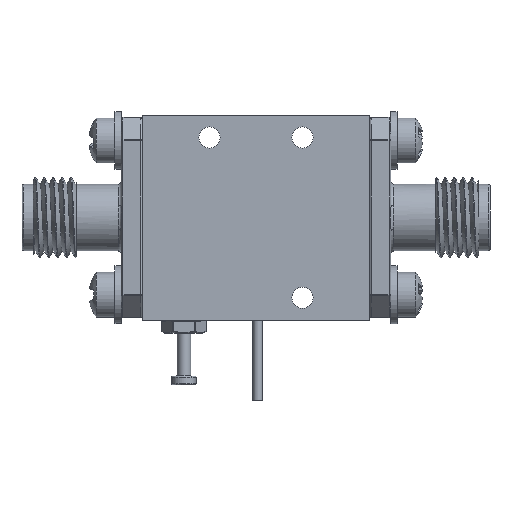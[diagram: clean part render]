
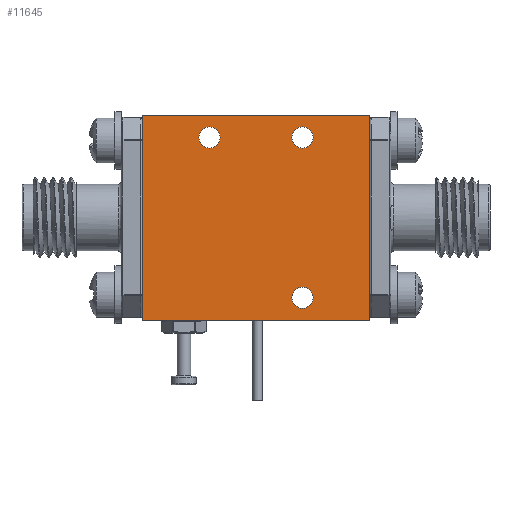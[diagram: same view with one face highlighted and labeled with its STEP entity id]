
A CAD part, front view. The second image highlights one B-rep face of the part: STEP entity #11645.
In plain terms, the highlighted planar face has unit normal (0, -1, 0).
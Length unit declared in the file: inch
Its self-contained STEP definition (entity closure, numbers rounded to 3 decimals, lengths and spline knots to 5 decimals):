
#1190 = ORIENTED_EDGE ( 'NONE', *, *, #27134, .F. ) ;
#1203 = ORIENTED_EDGE ( 'NONE', *, *, #33918, .T. ) ;
#1802 = ORIENTED_EDGE ( 'NONE', *, *, #6480, .F. ) ;
#2049 = PLANE ( 'NONE',  #17619 ) ;
#2176 = CARTESIAN_POINT ( 'NONE',  ( 39.39014, 39.2925, 39.29262 ) ) ;
#2521 = CARTESIAN_POINT ( 'NONE',  ( 39.39014, 39.2925, 39.82574 ) ) ;
#2618 = DIRECTION ( 'NONE',  ( 0., 0., 1. ) ) ;
#2927 = EDGE_CURVE ( 'NONE', #26041, #26041, #5618, .T. ) ;
#3206 = VECTOR ( 'NONE', #33217, 39.37008 ) ;
#5017 = ORIENTED_EDGE ( 'NONE', *, *, #19297, .T. ) ;
#5150 = EDGE_LOOP ( 'NONE', ( #9385 ) ) ;
#5272 = CARTESIAN_POINT ( 'NONE',  ( 39.10014, 39.2925, 39.79262 ) ) ;
#5476 = DIRECTION ( 'NONE',  ( 0., 0., -1. ) ) ;
#5618 = CIRCLE ( 'NONE', #19883, 0.03313 ) ;
#5742 = EDGE_LOOP ( 'NONE', ( #5017 ) ) ;
#5869 = DIRECTION ( 'NONE',  ( 0., 1., 0. ) ) ;
#6233 = EDGE_CURVE ( 'NONE', #35273, #27660, #19880, .T. ) ;
#6480 = EDGE_CURVE ( 'NONE', #27660, #11830, #9542, .T. ) ;
#7889 = FACE_BOUND ( 'NONE', #37215, .T. ) ;
#8123 = VECTOR ( 'NONE', #29157, 39.37008 ) ;
#8364 = CARTESIAN_POINT ( 'NONE',  ( 39.60014, 39.2925, 39.22262 ) ) ;
#9385 = ORIENTED_EDGE ( 'NONE', *, *, #2927, .T. ) ;
#9542 = LINE ( 'NONE', #21411, #3206 ) ;
#9549 = VECTOR ( 'NONE', #5476, 39.37008 ) ;
#11078 = DIRECTION ( 'NONE',  ( 0., 0., 1. ) ) ;
#11645 = ADVANCED_FACE ( 'NONE', ( #7889, #13726, #16849, #28650 ), #2049, .F. ) ;
#11792 = ORIENTED_EDGE ( 'NONE', *, *, #6233, .F. ) ;
#11830 = VERTEX_POINT ( 'NONE', #26261 ) ;
#11865 = VERTEX_POINT ( 'NONE', #20464 ) ;
#12132 = DIRECTION ( 'NONE',  ( 0., 1., 0. ) ) ;
#13726 = FACE_BOUND ( 'NONE', #5150, .T. ) ;
#13916 = CIRCLE ( 'NONE', #15189, 0.03313 ) ;
#13918 = VERTEX_POINT ( 'NONE', #16658 ) ;
#14003 = VECTOR ( 'NONE', #14317, 39.37008 ) ;
#14317 = DIRECTION ( 'NONE',  ( 1., 0., 0. ) ) ;
#15189 = AXIS2_PLACEMENT_3D ( 'NONE', #2176, #37466, #32067 ) ;
#16033 = EDGE_CURVE ( 'NONE', #11865, #35273, #32032, .T. ) ;
#16658 = CARTESIAN_POINT ( 'NONE',  ( 39.10014, 39.2925, 39.82574 ) ) ;
#16849 = FACE_BOUND ( 'NONE', #5742, .T. ) ;
#17349 = CARTESIAN_POINT ( 'NONE',  ( 38.89014, 39.2925, 39.22262 ) ) ;
#17406 = CARTESIAN_POINT ( 'NONE',  ( 39.39014, 39.2925, 39.32574 ) ) ;
#17529 = CARTESIAN_POINT ( 'NONE',  ( 38.89014, 39.2925, 39.22262 ) ) ;
#17619 = AXIS2_PLACEMENT_3D ( 'NONE', #26714, #12132, #2618 ) ;
#19297 = EDGE_CURVE ( 'NONE', #13918, #13918, #37602, .T. ) ;
#19880 = LINE ( 'NONE', #17349, #8123 ) ;
#19883 = AXIS2_PLACEMENT_3D ( 'NONE', #22564, #34360, #22947 ) ;
#20464 = CARTESIAN_POINT ( 'NONE',  ( 39.60014, 39.2925, 39.86262 ) ) ;
#21411 = CARTESIAN_POINT ( 'NONE',  ( 38.89014, 39.2925, 39.22262 ) ) ;
#22564 = CARTESIAN_POINT ( 'NONE',  ( 39.39014, 39.2925, 39.79262 ) ) ;
#22667 = ORIENTED_EDGE ( 'NONE', *, *, #16033, .F. ) ;
#22947 = DIRECTION ( 'NONE',  ( 0., 0., 1. ) ) ;
#26041 = VERTEX_POINT ( 'NONE', #2521 ) ;
#26261 = CARTESIAN_POINT ( 'NONE',  ( 38.89014, 39.2925, 39.86262 ) ) ;
#26714 = CARTESIAN_POINT ( 'NONE',  ( 39.24514, 39.2925, 39.54262 ) ) ;
#26916 = CARTESIAN_POINT ( 'NONE',  ( 38.89014, 39.2925, 39.86262 ) ) ;
#27134 = EDGE_CURVE ( 'NONE', #11830, #11865, #31945, .T. ) ;
#27660 = VERTEX_POINT ( 'NONE', #17529 ) ;
#28650 = FACE_OUTER_BOUND ( 'NONE', #32844, .T. ) ;
#29131 = CARTESIAN_POINT ( 'NONE',  ( 39.60014, 39.2925, 39.22262 ) ) ;
#29157 = DIRECTION ( 'NONE',  ( -1., 0., 0. ) ) ;
#31945 = LINE ( 'NONE', #26916, #14003 ) ;
#32032 = LINE ( 'NONE', #29131, #9549 ) ;
#32067 = DIRECTION ( 'NONE',  ( 0., 0., 1. ) ) ;
#32312 = VERTEX_POINT ( 'NONE', #17406 ) ;
#32844 = EDGE_LOOP ( 'NONE', ( #1802, #11792, #22667, #1190 ) ) ;
#33217 = DIRECTION ( 'NONE',  ( 0., 0., 1. ) ) ;
#33337 = AXIS2_PLACEMENT_3D ( 'NONE', #5272, #5869, #11078 ) ;
#33918 = EDGE_CURVE ( 'NONE', #32312, #32312, #13916, .T. ) ;
#34360 = DIRECTION ( 'NONE',  ( 0., 1., 0. ) ) ;
#35273 = VERTEX_POINT ( 'NONE', #8364 ) ;
#37215 = EDGE_LOOP ( 'NONE', ( #1203 ) ) ;
#37466 = DIRECTION ( 'NONE',  ( 0., 1., 0. ) ) ;
#37602 = CIRCLE ( 'NONE', #33337, 0.03313 ) ;
